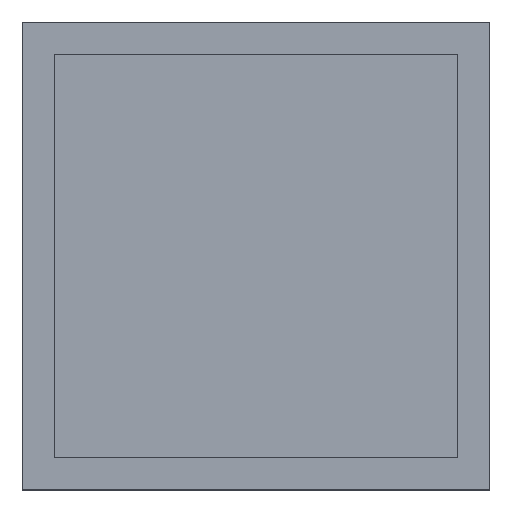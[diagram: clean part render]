
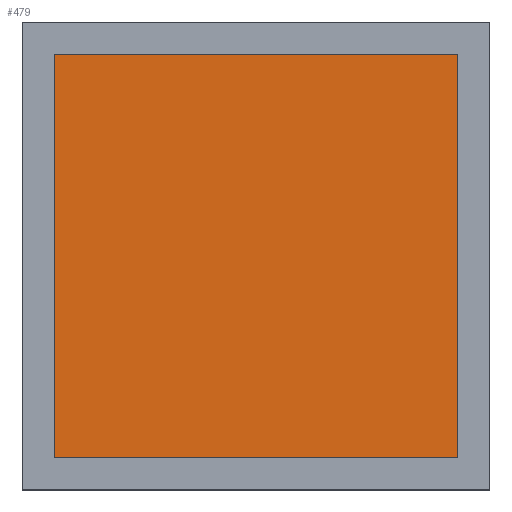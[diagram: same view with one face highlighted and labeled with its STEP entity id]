
A CAD part, top view. The second image highlights one B-rep face of the part: STEP entity #479.
In plain terms, the highlighted planar face has unit normal (0, 0, 1).
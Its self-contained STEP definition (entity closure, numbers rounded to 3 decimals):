
#408=CARTESIAN_POINT('',(-12.5,-12.5,8.6));
#409=VERTEX_POINT('',#408);
#410=CARTESIAN_POINT('',(12.5,-12.5,8.6));
#411=VERTEX_POINT('',#410);
#412=CARTESIAN_POINT('',(-12.5,12.5,8.6));
#413=VERTEX_POINT('',#412);
#414=CARTESIAN_POINT('',(12.5,12.5,8.6));
#415=VERTEX_POINT('',#414);
#448=DIRECTION('',(1.0,0.0,0.0));
#449=VECTOR('',#448,25.);
#450=CARTESIAN_POINT('',(-12.5,-12.5,8.6));
#451=LINE('',#450,#449);
#452=EDGE_CURVE('',#409,#411,#451,.T.);
#453=ORIENTED_EDGE('',*,*,#452,.T.);
#454=DIRECTION('',(0.0,1.0,0.0));
#455=VECTOR('',#454,25.);
#456=CARTESIAN_POINT('',(12.5,-12.5,8.6));
#457=LINE('',#456,#455);
#458=EDGE_CURVE('',#411,#415,#457,.T.);
#459=ORIENTED_EDGE('',*,*,#458,.T.);
#460=DIRECTION('',(1.0,0.0,0.0));
#461=VECTOR('',#460,25.);
#462=CARTESIAN_POINT('',(-12.5,12.5,8.6));
#463=LINE('',#462,#461);
#464=EDGE_CURVE('',#413,#415,#463,.T.);
#465=ORIENTED_EDGE('',*,*,#464,.F.);
#466=DIRECTION('',(0.0,1.0,0.0));
#467=VECTOR('',#466,25.);
#468=CARTESIAN_POINT('',(-12.5,-12.5,8.6));
#469=LINE('',#468,#467);
#470=EDGE_CURVE('',#409,#413,#469,.T.);
#471=ORIENTED_EDGE('',*,*,#470,.F.);
#472=EDGE_LOOP('',(#453,#459,#465,#471));
#473=FACE_OUTER_BOUND('',#472,.T.);
#474=CARTESIAN_POINT('',(-12.5,-12.5,8.6));
#475=DIRECTION('',(0.0,0.0,1.0));
#476=DIRECTION('',(1.0,0.0,0.0));
#477=AXIS2_PLACEMENT_3D('',#474,#475,#476);
#478=PLANE('',#477);
#479=ADVANCED_FACE('',(#473),#478,.T.);
